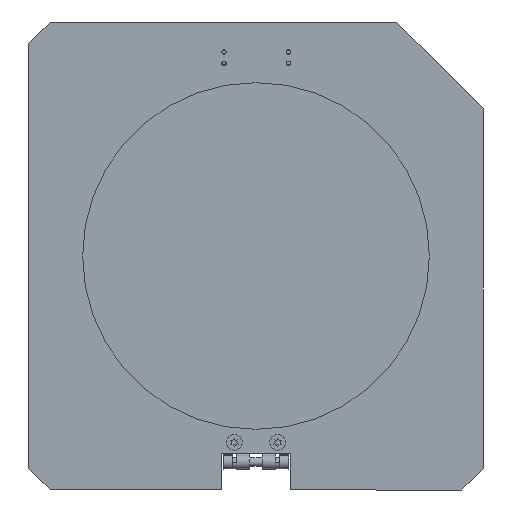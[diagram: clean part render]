
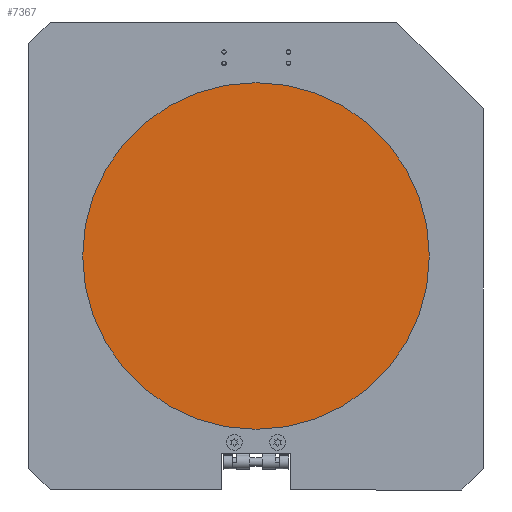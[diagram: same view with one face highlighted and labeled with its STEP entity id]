
A CAD part, front view. The second image highlights one B-rep face of the part: STEP entity #7367.
In plain terms, the highlighted planar face has unit normal (0, -1, 0) as drawn and (0, 0, -1) by its records, which use the part's own axes.
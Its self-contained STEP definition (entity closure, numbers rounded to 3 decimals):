
#385 = LINE ( 'NONE', #1994, #10296 ) ;
#947 = DIRECTION ( 'NONE',  ( 0., -1., 0. ) ) ;
#1017 = VECTOR ( 'NONE', #4797, 1000. ) ;
#1259 = PLANE ( 'NONE',  #4441 ) ;
#1514 = VERTEX_POINT ( 'NONE', #16925 ) ;
#1634 = DIRECTION ( 'NONE',  ( 0., 1., 0. ) ) ;
#1683 = VECTOR ( 'NONE', #4586, 1000. ) ;
#1719 = LINE ( 'NONE', #5105, #8780 ) ;
#1899 = EDGE_CURVE ( 'NONE', #17124, #17286, #17255, .T. ) ;
#1942 = DIRECTION ( 'NONE',  ( -1., 0., 0. ) ) ;
#1959 = VECTOR ( 'NONE', #1634, 1000. ) ;
#1994 = CARTESIAN_POINT ( 'NONE',  ( 8., 0., 0. ) ) ;
#2042 = ORIENTED_EDGE ( 'NONE', *, *, #2465, .T. ) ;
#2057 = ORIENTED_EDGE ( 'NONE', *, *, #6631, .F. ) ;
#2439 = DIRECTION ( 'NONE',  ( 0., 0., 1. ) ) ;
#2465 = EDGE_CURVE ( 'NONE', #6424, #20765, #1719, .T. ) ;
#2485 = VERTEX_POINT ( 'NONE', #12601 ) ;
#2699 = DIRECTION ( 'NONE',  ( 0., 0., 1. ) ) ;
#2856 = CARTESIAN_POINT ( 'NONE',  ( 0., 0., 0. ) ) ;
#3146 = CIRCLE ( 'NONE', #22049, 41. ) ;
#3170 = EDGE_CURVE ( 'NONE', #9090, #9090, #16472, .T. ) ;
#3216 = LINE ( 'NONE', #6508, #1959 ) ;
#3545 = CARTESIAN_POINT ( 'NONE',  ( 25.75, 37.75, 0. ) ) ;
#3795 = DIRECTION ( 'NONE',  ( 0., 0., 1. ) ) ;
#4105 = DIRECTION ( 'NONE',  ( 0., -1., 0. ) ) ;
#4441 = AXIS2_PLACEMENT_3D ( 'NONE', #2856, #10004, #20473 ) ;
#4586 = DIRECTION ( 'NONE',  ( -0.707, 0.707, 0. ) ) ;
#4623 = CIRCLE ( 'NONE', #11161, 41. ) ;
#4758 = CARTESIAN_POINT ( 'NONE',  ( -25.75, 31.905, 0. ) ) ;
#4797 = DIRECTION ( 'NONE',  ( 0., 1., 0. ) ) ;
#4829 = DIRECTION ( 'NONE',  ( 0., -1., 0. ) ) ;
#4890 = CIRCLE ( 'NONE', #8951, 1.825 ) ;
#4901 = VECTOR ( 'NONE', #4105, 1000. ) ;
#4984 = ORIENTED_EDGE ( 'NONE', *, *, #11479, .T. ) ;
#5105 = CARTESIAN_POINT ( 'NONE',  ( 0., 41., 0. ) ) ;
#5128 = ORIENTED_EDGE ( 'NONE', *, *, #17249, .T. ) ;
#5250 = EDGE_CURVE ( 'NONE', #12779, #20765, #6390, .T. ) ;
#5341 = VERTEX_POINT ( 'NONE', #13434 ) ;
#5596 = CARTESIAN_POINT ( 'NONE',  ( -20.05, -45.5, 0. ) ) ;
#5905 = DIRECTION ( 'NONE',  ( 0., 1., 0. ) ) ;
#6362 = FACE_BOUND ( 'NONE', #15994, .T. ) ;
#6390 = LINE ( 'NONE', #8552, #1683 ) ;
#6424 = VERTEX_POINT ( 'NONE', #6448 ) ;
#6448 = CARTESIAN_POINT ( 'NONE',  ( -22.5, 41., 0. ) ) ;
#6508 = CARTESIAN_POINT ( 'NONE',  ( 25.75, 0., 0. ) ) ;
#6631 = EDGE_CURVE ( 'NONE', #5341, #10289, #20665, .T. ) ;
#6681 = CARTESIAN_POINT ( 'NONE',  ( 22.5, 41., 0. ) ) ;
#6765 = LINE ( 'NONE', #20769, #20108 ) ;
#7215 = EDGE_CURVE ( 'NONE', #18936, #22331, #12739, .T. ) ;
#7367 = ADVANCED_FACE ( 'NONE', ( #15448, #18434, #6362 ), #1259, .F. ) ;
#7401 = ORIENTED_EDGE ( 'NONE', *, *, #16073, .F. ) ;
#8281 = EDGE_CURVE ( 'NONE', #2485, #2485, #4890, .T. ) ;
#8516 = LINE ( 'NONE', #9578, #15870 ) ;
#8552 = CARTESIAN_POINT ( 'NONE',  ( 31.75, 31.75, 0. ) ) ;
#8758 = CARTESIAN_POINT ( 'NONE',  ( 8., -40., 0. ) ) ;
#8780 = VECTOR ( 'NONE', #8964, 1000. ) ;
#8899 = CARTESIAN_POINT ( 'NONE',  ( 8., -45.5, 0. ) ) ;
#8951 = AXIS2_PLACEMENT_3D ( 'NONE', #13147, #2699, #4829 ) ;
#8964 = DIRECTION ( 'NONE',  ( 1., 0., 0. ) ) ;
#9090 = VERTEX_POINT ( 'NONE', #19308 ) ;
#9186 = ORIENTED_EDGE ( 'NONE', *, *, #8281, .T. ) ;
#9285 = VECTOR ( 'NONE', #12235, 1000. ) ;
#9578 = CARTESIAN_POINT ( 'NONE',  ( 20.05, 0., 0. ) ) ;
#9831 = VERTEX_POINT ( 'NONE', #17562 ) ;
#10004 = DIRECTION ( 'NONE',  ( 0., 0., 1. ) ) ;
#10289 = VERTEX_POINT ( 'NONE', #19775 ) ;
#10296 = VECTOR ( 'NONE', #17563, 1000. ) ;
#10851 = DIRECTION ( 'NONE',  ( 1., 0., 0. ) ) ;
#11004 = VERTEX_POINT ( 'NONE', #11322 ) ;
#11161 = AXIS2_PLACEMENT_3D ( 'NONE', #19721, #2439, #16075 ) ;
#11322 = CARTESIAN_POINT ( 'NONE',  ( 8., -40., 0. ) ) ;
#11376 = AXIS2_PLACEMENT_3D ( 'NONE', #14110, #15922, #5905 ) ;
#11479 = EDGE_CURVE ( 'NONE', #17286, #11004, #385, .T. ) ;
#11743 = CARTESIAN_POINT ( 'NONE',  ( -25.75, 0., 0. ) ) ;
#11751 = ORIENTED_EDGE ( 'NONE', *, *, #1899, .T. ) ;
#12110 = ORIENTED_EDGE ( 'NONE', *, *, #18347, .F. ) ;
#12235 = DIRECTION ( 'NONE',  ( 0., 1., 0. ) ) ;
#12601 = CARTESIAN_POINT ( 'NONE',  ( 14.025, -44.825, 0. ) ) ;
#12739 = LINE ( 'NONE', #16387, #4901 ) ;
#12779 = VERTEX_POINT ( 'NONE', #3545 ) ;
#12926 = ORIENTED_EDGE ( 'NONE', *, *, #21073, .T. ) ;
#13084 = LINE ( 'NONE', #19683, #15003 ) ;
#13147 = CARTESIAN_POINT ( 'NONE',  ( 14.025, -43., 0. ) ) ;
#13249 = EDGE_CURVE ( 'NONE', #9831, #12779, #3216, .T. ) ;
#13434 = CARTESIAN_POINT ( 'NONE',  ( -8., -45.5, 0. ) ) ;
#13823 = DIRECTION ( 'NONE',  ( -1., 0., 0. ) ) ;
#13942 = EDGE_CURVE ( 'NONE', #14323, #6424, #6765, .T. ) ;
#14110 = CARTESIAN_POINT ( 'NONE',  ( -14.025, -43., 0. ) ) ;
#14210 = CARTESIAN_POINT ( 'NONE',  ( -20.05, -35.763, 0. ) ) ;
#14323 = VERTEX_POINT ( 'NONE', #16410 ) ;
#14635 = VERTEX_POINT ( 'NONE', #4758 ) ;
#14975 = ORIENTED_EDGE ( 'NONE', *, *, #15410, .F. ) ;
#15003 = VECTOR ( 'NONE', #17987, 1000. ) ;
#15378 = ORIENTED_EDGE ( 'NONE', *, *, #7215, .F. ) ;
#15410 = EDGE_CURVE ( 'NONE', #22331, #5341, #13084, .T. ) ;
#15448 = FACE_BOUND ( 'NONE', #16789, .T. ) ;
#15476 = ORIENTED_EDGE ( 'NONE', *, *, #13942, .T. ) ;
#15571 = LINE ( 'NONE', #8758, #19898 ) ;
#15593 = ORIENTED_EDGE ( 'NONE', *, *, #20691, .T. ) ;
#15752 = DIRECTION ( 'NONE',  ( 0.707, 0.707, 0. ) ) ;
#15870 = VECTOR ( 'NONE', #947, 1000. ) ;
#15914 = ORIENTED_EDGE ( 'NONE', *, *, #5250, .F. ) ;
#15922 = DIRECTION ( 'NONE',  ( 0., 0., 1. ) ) ;
#15994 = EDGE_LOOP ( 'NONE', ( #18199 ) ) ;
#16073 = EDGE_CURVE ( 'NONE', #14635, #18936, #4623, .T. ) ;
#16075 = DIRECTION ( 'NONE',  ( 1., 0., 0. ) ) ;
#16387 = CARTESIAN_POINT ( 'NONE',  ( -20.05, 0., 0. ) ) ;
#16410 = CARTESIAN_POINT ( 'NONE',  ( -25.75, 37.75, 0. ) ) ;
#16472 = CIRCLE ( 'NONE', #11376, 1.825 ) ;
#16789 = EDGE_LOOP ( 'NONE', ( #9186 ) ) ;
#16925 = CARTESIAN_POINT ( 'NONE',  ( 20.05, -35.763, 0. ) ) ;
#17037 = VECTOR ( 'NONE', #13823, 1000. ) ;
#17124 = VERTEX_POINT ( 'NONE', #20060 ) ;
#17249 = EDGE_CURVE ( 'NONE', #14635, #14323, #21994, .T. ) ;
#17255 = LINE ( 'NONE', #21009, #17037 ) ;
#17286 = VERTEX_POINT ( 'NONE', #8899 ) ;
#17310 = EDGE_LOOP ( 'NONE', ( #4984, #12926, #2057, #14975, #15378, #7401, #5128, #15476, #2042, #15914, #19306, #12110, #15593, #11751 ) ) ;
#17562 = CARTESIAN_POINT ( 'NONE',  ( 25.75, 31.905, 0. ) ) ;
#17563 = DIRECTION ( 'NONE',  ( 0., 1., 0. ) ) ;
#17987 = DIRECTION ( 'NONE',  ( 1., 0., 0. ) ) ;
#18199 = ORIENTED_EDGE ( 'NONE', *, *, #3170, .T. ) ;
#18347 = EDGE_CURVE ( 'NONE', #1514, #9831, #3146, .T. ) ;
#18434 = FACE_OUTER_BOUND ( 'NONE', #17310, .T. ) ;
#18936 = VERTEX_POINT ( 'NONE', #14210 ) ;
#19306 = ORIENTED_EDGE ( 'NONE', *, *, #13249, .F. ) ;
#19308 = CARTESIAN_POINT ( 'NONE',  ( -14.025, -41.175, 0. ) ) ;
#19683 = CARTESIAN_POINT ( 'NONE',  ( 0., -45.5, 0. ) ) ;
#19721 = CARTESIAN_POINT ( 'NONE',  ( 0., 0., 0. ) ) ;
#19775 = CARTESIAN_POINT ( 'NONE',  ( -8., -40., 0. ) ) ;
#19898 = VECTOR ( 'NONE', #1942, 1000. ) ;
#20060 = CARTESIAN_POINT ( 'NONE',  ( 20.05, -45.5, 0. ) ) ;
#20108 = VECTOR ( 'NONE', #15752, 1000. ) ;
#20473 = DIRECTION ( 'NONE',  ( 1., 0., 0. ) ) ;
#20665 = LINE ( 'NONE', #22379, #9285 ) ;
#20691 = EDGE_CURVE ( 'NONE', #1514, #17124, #8516, .T. ) ;
#20765 = VERTEX_POINT ( 'NONE', #6681 ) ;
#20769 = CARTESIAN_POINT ( 'NONE',  ( -31.75, 31.75, 0. ) ) ;
#21009 = CARTESIAN_POINT ( 'NONE',  ( 0., -45.5, 0. ) ) ;
#21073 = EDGE_CURVE ( 'NONE', #11004, #10289, #15571, .T. ) ;
#21321 = CARTESIAN_POINT ( 'NONE',  ( 0., 0., 0. ) ) ;
#21994 = LINE ( 'NONE', #11743, #1017 ) ;
#22049 = AXIS2_PLACEMENT_3D ( 'NONE', #21321, #3795, #10851 ) ;
#22331 = VERTEX_POINT ( 'NONE', #5596 ) ;
#22379 = CARTESIAN_POINT ( 'NONE',  ( -8., 0., 0. ) ) ;
